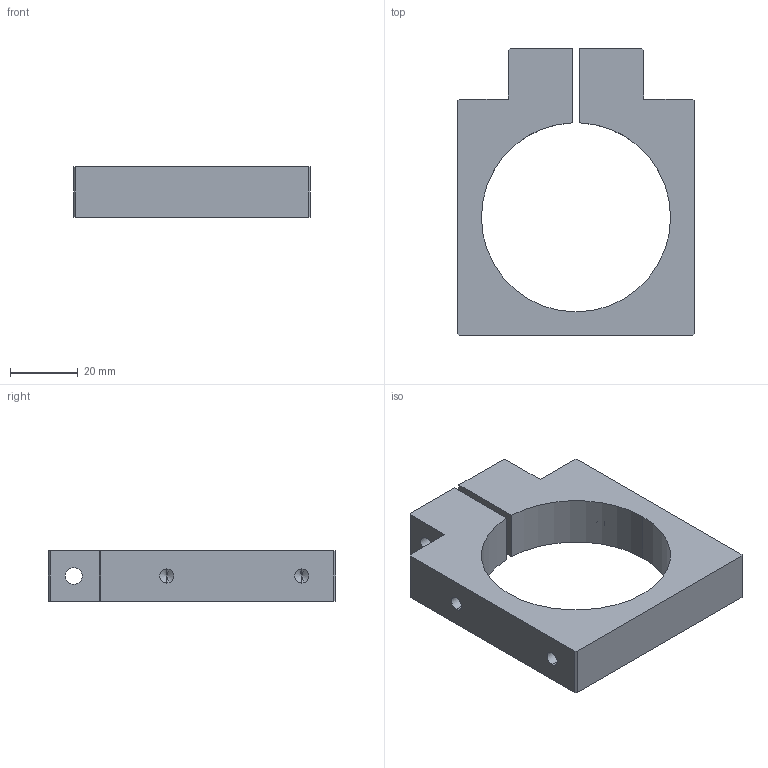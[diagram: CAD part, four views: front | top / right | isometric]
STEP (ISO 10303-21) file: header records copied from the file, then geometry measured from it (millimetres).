
FILE_DESCRIPTION (( 'STEP AP214' ), '1' );
FILE_NAME ('SCE4-NR30.STEP', '2019-11-19T02:17:45', ( '微软用户' ), ( '微软中国' ), 'SwSTEP 2.0', 'SolidWorks 2016', '' );
FILE_SCHEMA (( 'AUTOMOTIVE_DESIGN' ));
Length unit declared in the file: millimetre
Products named in the file (1): SCE4-NR30
Bounding box: 70 x 85 x 15 mm (x, y, z)
Volume: 43302.4 mm3; surface area: 14965.4 mm2
Topology: 1 solids, 1 shells, 42 faces, 112 edges, 68 vertices
Faces by surface type: plane 19, cylinder 15, cone 8
Entity records: 1398 total; most frequent: DIRECTION 220, CARTESIAN_POINT 215, ORIENTED_EDGE 208, EDGE_CURVE 104, LINE 74, VECTOR 74, AXIS2_PLACEMENT_3D 73, VERTEX_POINT 68
